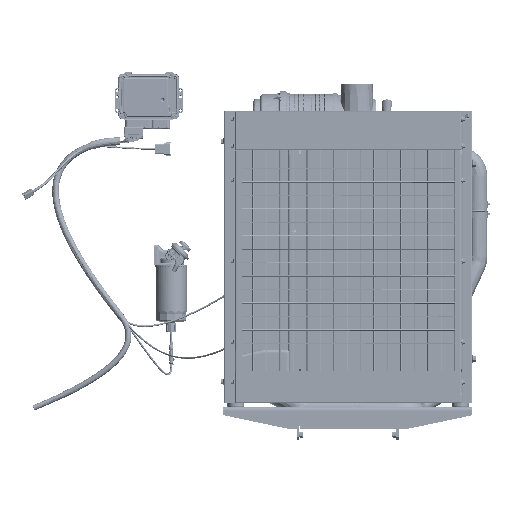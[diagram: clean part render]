
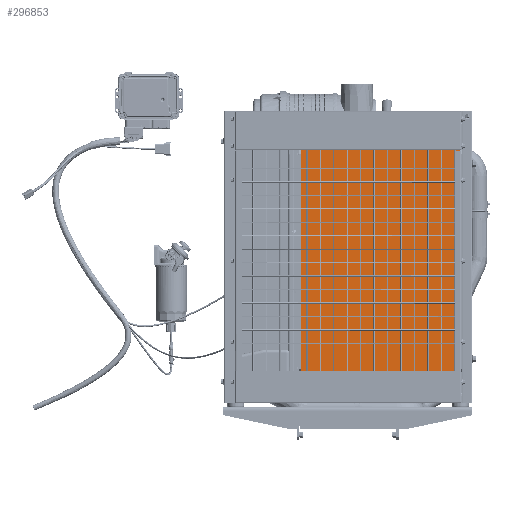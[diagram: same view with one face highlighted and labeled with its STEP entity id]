
A CAD part, left-side view. The second image highlights one B-rep face of the part: STEP entity #296853.
In plain terms, the highlighted planar face has unit normal (-1, 0, 0) as drawn and (0, 0, -1) by its records, which use the part's own axes.
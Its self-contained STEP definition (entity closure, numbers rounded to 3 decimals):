
#296833=AXIS2_PLACEMENT_3D('Plane Axis2P3D',#296830,#296831,#296832) ;
#296753=CARTESIAN_POINT('Vertex',(396.608,2072.277,-770.361)) ;
#296756=CARTESIAN_POINT('Line Origine',(396.608,1742.277,-770.361)) ;
#296760=CARTESIAN_POINT('Vertex',(396.608,1412.277,-770.361)) ;
#296815=CARTESIAN_POINT('Vertex',(870.608,2072.277,-770.361)) ;
#296818=CARTESIAN_POINT('Line Origine',(633.608,2072.277,-770.361)) ;
#296830=CARTESIAN_POINT('Axis2P3D Location',(396.608,2072.277,-770.361)) ;
#296835=CARTESIAN_POINT('Line Origine',(870.608,1742.277,-770.361)) ;
#296839=CARTESIAN_POINT('Vertex',(870.608,1412.277,-770.361)) ;
#296842=CARTESIAN_POINT('Line Origine',(633.608,1412.277,-770.361)) ;
#296757=DIRECTION('Vector Direction',(0.,1.,0.)) ;
#296819=DIRECTION('Vector Direction',(1.,0.,0.)) ;
#296831=DIRECTION('Axis2P3D Direction',(0.,0.,-1.)) ;
#296832=DIRECTION('Axis2P3D XDirection',(1.,0.,0.)) ;
#296836=DIRECTION('Vector Direction',(0.,-1.,0.)) ;
#296843=DIRECTION('Vector Direction',(-1.,0.,0.)) ;
#296758=VECTOR('Line Direction',#296757,1.) ;
#296820=VECTOR('Line Direction',#296819,1.) ;
#296837=VECTOR('Line Direction',#296836,1.) ;
#296844=VECTOR('Line Direction',#296843,1.) ;
#296848=ORIENTED_EDGE('',*,*,#296762,.T.) ;
#296849=ORIENTED_EDGE('',*,*,#296822,.T.) ;
#296850=ORIENTED_EDGE('',*,*,#296841,.T.) ;
#296851=ORIENTED_EDGE('',*,*,#296846,.T.) ;
#296853=ADVANCED_FACE('NAUO1\\NAUO106\\NAUO147\\NAUO154\\\X2\51F853F0\X0\-\X2\62C94F38\X0\1',(#296852),#296834,.T.) ;
#296762=EDGE_CURVE('',#296761,#296754,#296759,.T.) ;
#296822=EDGE_CURVE('',#296754,#296816,#296821,.T.) ;
#296841=EDGE_CURVE('',#296816,#296840,#296838,.T.) ;
#296846=EDGE_CURVE('',#296840,#296761,#296845,.T.) ;
#296847=EDGE_LOOP('',(#296848,#296849,#296850,#296851)) ;
#296852=FACE_OUTER_BOUND('',#296847,.T.) ;
#296759=LINE('Line',#296756,#296758) ;
#296821=LINE('Line',#296818,#296820) ;
#296838=LINE('Line',#296835,#296837) ;
#296845=LINE('Line',#296842,#296844) ;
#296834=PLANE('',#296833) ;
#296754=VERTEX_POINT('',#296753) ;
#296761=VERTEX_POINT('',#296760) ;
#296816=VERTEX_POINT('',#296815) ;
#296840=VERTEX_POINT('',#296839) ;
